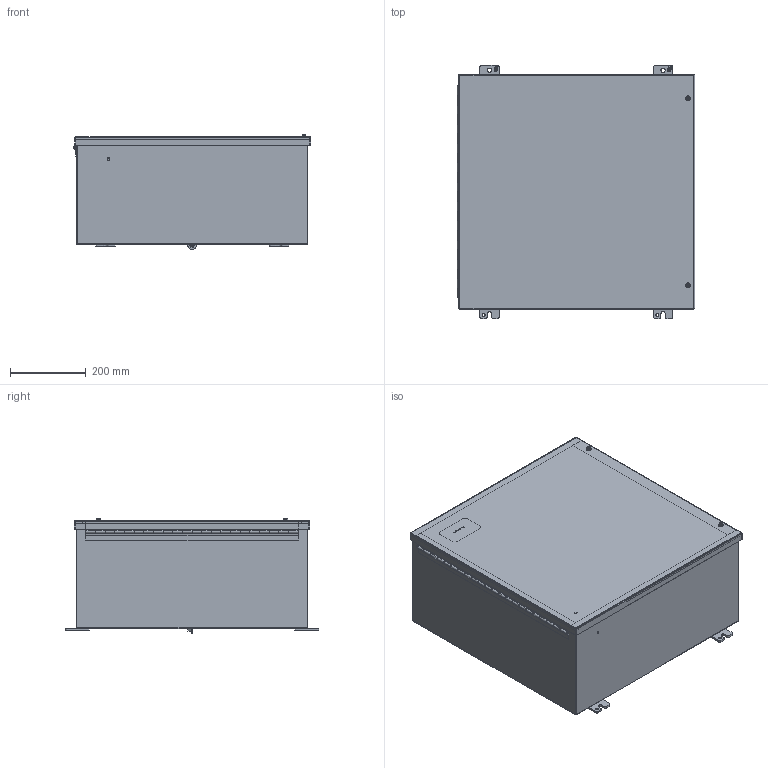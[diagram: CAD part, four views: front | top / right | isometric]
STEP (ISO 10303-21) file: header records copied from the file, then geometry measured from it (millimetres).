
FILE_DESCRIPTION(/* description */ ('Unknown'),/* implementation_level */ '2;1');
FILE_NAME(/* name */ '1418JJ11',/* time_stamp */ '2018-10-09T10:39:13-04:00',/* author */ ('Unknown'),/* organization */ ('Unknown'),/* preprocessor_version */ 'ST-DEVELOPER v16.7',/* originating_system */ 'DEX',/* authorisation */ $);
FILE_SCHEMA (('AUTOMOTIVE_DESIGN {1 0 10303 214 3 1 1}'));
Length unit declared in the file: millimetre
Products named in the file (32): 1418JJ11; COM50853; COM52210; RVT19021; COM48717; COM56142-3; COM56142-3B; STD21878; COM40676; GSK10110_oa_0; AKT95037; RNG17670; SCC180505; WAM25540; AKT95002; WAF25059; NTS166105; STD26094; FET07710; PKT99; QLB20213; BUL10020; GSK10110_oa_1; KIT95018; LAB30005; GSK10115_oa_2; GSK10110_oa_3; KIT90256; NTS165305; NTS16535
Assembly tree (45 placements, depth 4):
  1418JJ11
    COM50853  x2
    COM52210
    RVT19021  x2
    COM48717
      COM56142-3
        COM56142-3B
        COM56142-3
      STD21878
      COM48717
    COM40676
    GSK10110_oa_0
    AKT95037  x2
      RNG17670
      SCC180505
      WAM25540
    AKT95002  x2
      WAF25059
      NTS166105
    STD21878
    STD26094  x4
    FET07710  x4
    PKT99
    QLB20213
    BUL10020
    GSK10110_oa_1
    KIT95018
      WAF25059
      NTS166105
      LAB30005
    GSK10115_oa_2
    GSK10110_oa_3
    KIT90256
      LAB30005
      NTS165305
      NTS16535
Bounding box: 624.93 x 666.75 x 301.85 mm (x, y, z)
Volume: 4049475.3 mm3; surface area: 3990805.7 mm2
Topology: 39 solids, 39 shells, 912 faces, 2301 edges, 1503 vertices
Faces by surface type: plane 639, cylinder 215, bspline 22, cone 18, torus 16, sphere 2
Full cylindrical faces by diameter (mm): 4.763 x2, 4.976 x1, 6.198 x2, 6.35 x3, 6.604 x2, 6.756 x2, 7.112 x2, 7.137 x2, 7.366 x2, 7.805 x3, 7.938 x4, 8.382 x4, 9.525 x4, 9.906 x2, 10.084 x2, 11.113 x4, 11.303 x3, 12.7 x6, 12.954 x2, 16.51 x4, 25.4 x3, 88.9 x1
Entity records: 22634 total; most frequent: CARTESIAN_POINT 6424, ORIENTED_EDGE 3190, DIRECTION 3134, EDGE_CURVE 1595, LINE 1120, VECTOR 1120, VERTEX_POINT 1057, AXIS2_PLACEMENT_3D 1007
